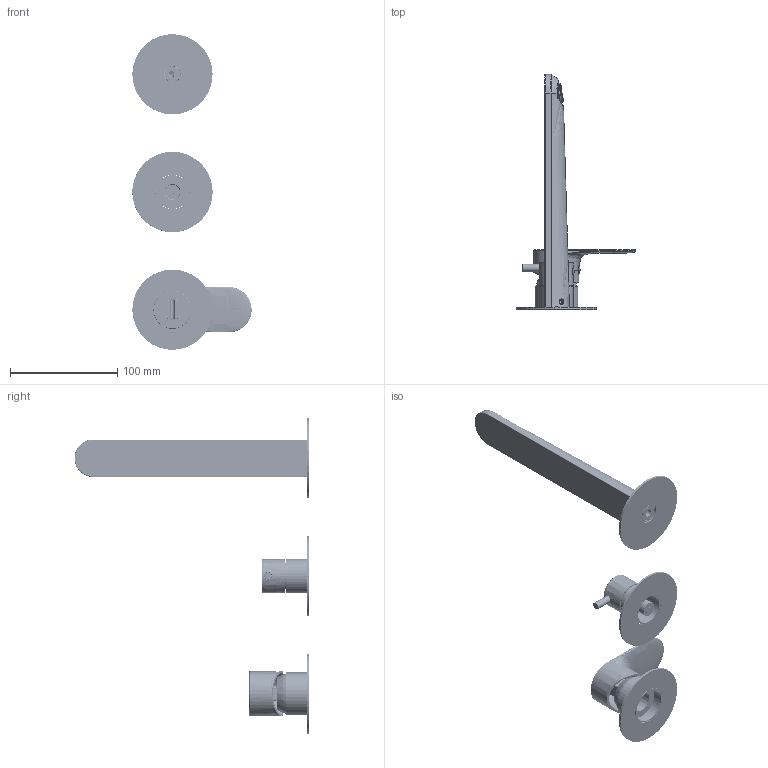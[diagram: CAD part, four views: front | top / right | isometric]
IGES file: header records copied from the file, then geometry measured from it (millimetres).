
Start section:  PTC IGES file: 3d_sw0001.igs
Global section: file name: 3d_sw0001.igs; native system: Creo Parametric by PTC Inc.; preprocessor: 2022014; author: volponeff; organization: Unknown; date: 20241004.104815; units: millimetre
Bounding box: 111.5 x 219.5 x 295 mm (x, y, z)
Surface area: 111303.1 mm2 (no closed solid volume)
Topology: 0 solids, 0 shells, 5282 faces, 27578 edges, 27551 vertices
Faces by surface type: bspline 3705, revolution 1575, extrusion 2
